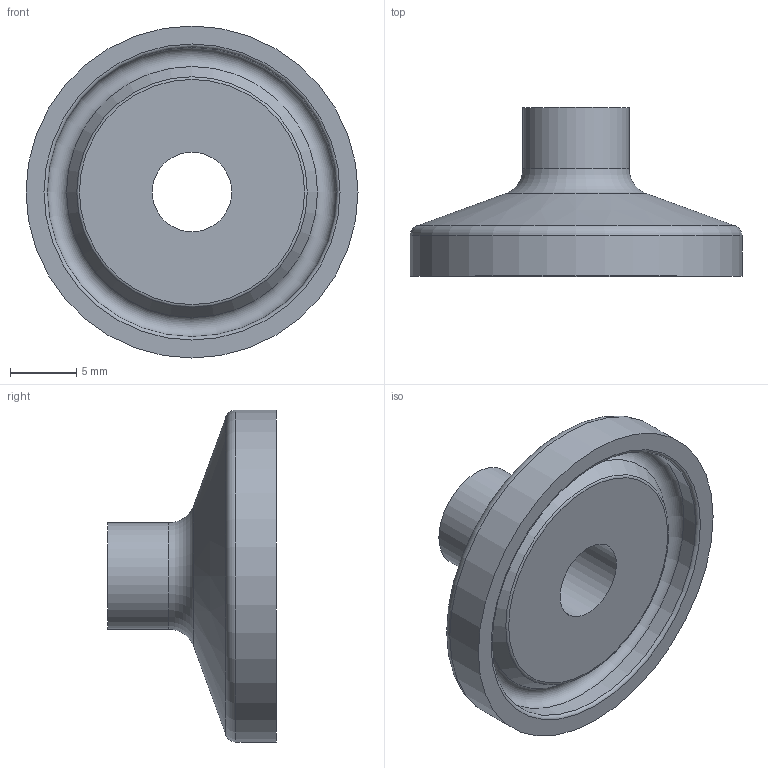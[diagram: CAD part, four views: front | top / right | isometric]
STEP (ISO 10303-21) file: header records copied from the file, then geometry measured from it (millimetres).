
FILE_DESCRIPTION(('Ferrule_8x1_L12,7_FL25_V11'),'2;1');
FILE_NAME('Ferrule_8x1_L12,7_FL25_V11.stp','2013-11-03T12:48:34',('DOCKWEILER AG'),('DOCKWEILER AG'),'Autodesk Inventor 2012','Autodesk Inventor 2012','');
FILE_SCHEMA(('CONFIG_CONTROL_DESIGN'));
Length unit declared in the file: millimetre
Products named in the file (1): N0003_003_001
Bounding box: 25 x 12.7 x 25 mm (x, y, z)
Volume: 2003.8 mm3; surface area: 1758 mm2
Topology: 1 solids, 1 shells, 14 faces, 25 edges, 14 vertices
Faces by surface type: torus 5, cylinder 4, plane 3, cone 2
Full cylindrical faces by diameter (mm): 6 x1, 8 x1, 21.8 x1, 25 x1
Entity records: 314 total; most frequent: DIRECTION 58, CARTESIAN_POINT 43, AXIS2_PLACEMENT_3D 29, ORIENTED_EDGE 28, EDGE_LOOP 28, VERTEX_POINT 14, CIRCLE 14, EDGE_CURVE 14
